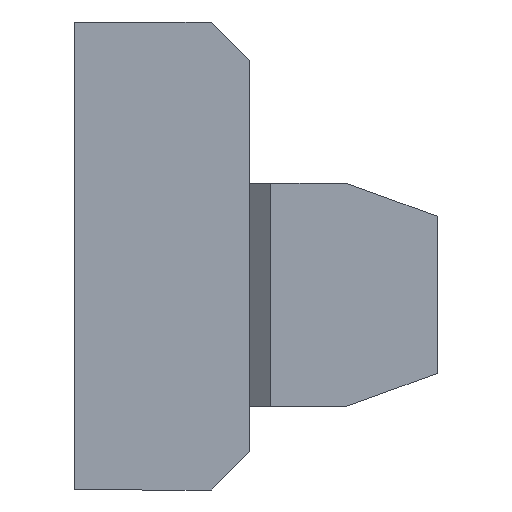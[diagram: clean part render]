
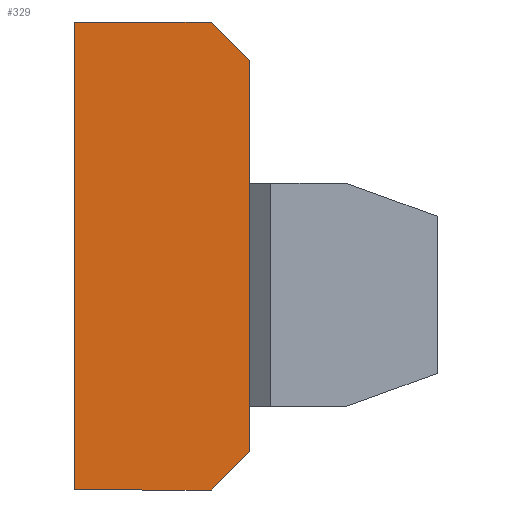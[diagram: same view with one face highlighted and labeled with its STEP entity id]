
A CAD part, left-side view. The second image highlights one B-rep face of the part: STEP entity #329.
In plain terms, the highlighted planar face has unit normal (-1, 0, 0).
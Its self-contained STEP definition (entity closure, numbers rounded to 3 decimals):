
#45=CARTESIAN_POINT('',(4.53,46.968,12.06));
#46=VERTEX_POINT('',#45);
#53=CARTESIAN_POINT('',(4.53,46.968,5.56));
#54=VERTEX_POINT('',#53);
#55=CARTESIAN_POINT('',(4.53,46.968,12.06));
#56=DIRECTION('',(0.,0.,-1.));
#57=VECTOR('',#56,6.5);
#58=LINE('',#55,#57);
#59=EDGE_CURVE('',#46,#54,#58,.T.);
#84=CARTESIAN_POINT('',(4.53,52.468,0.06));
#85=VERTEX_POINT('',#84);
#86=CARTESIAN_POINT('',(4.53,46.968,5.56));
#87=DIRECTION('',(0.,0.707,-0.707));
#88=VECTOR('',#87,7.778);
#89=LINE('',#86,#88);
#90=EDGE_CURVE('',#54,#85,#89,.T.);
#258=CARTESIAN_POINT('',(4.53,52.468,67.21));
#259=VERTEX_POINT('',#258);
#266=CARTESIAN_POINT('',(4.53,46.968,61.71));
#267=VERTEX_POINT('',#266);
#268=CARTESIAN_POINT('',(4.53,52.468,67.21));
#269=DIRECTION('',(0.,-0.707,-0.707));
#270=VECTOR('',#269,7.778);
#271=LINE('',#268,#270);
#272=EDGE_CURVE('',#259,#267,#271,.T.);
#283=CARTESIAN_POINT('',(4.53,89.279,0.06));
#284=DIRECTION('',(0.,0.,-1.));
#285=DIRECTION('',(-1.,0.,0.));
#286=AXIS2_PLACEMENT_3D('',#283,#285,#284);
#287=PLANE('',#286);
#288=ORIENTED_EDGE('',*,*,#272,.F.);
#289=CARTESIAN_POINT('',(4.53,72.018,67.21));
#290=VERTEX_POINT('',#289);
#291=CARTESIAN_POINT('',(4.53,52.468,67.21));
#292=DIRECTION('',(0.,1.,0.));
#293=VECTOR('',#292,19.55);
#294=LINE('',#291,#293);
#295=EDGE_CURVE('',#259,#290,#294,.T.);
#296=ORIENTED_EDGE('E38',*,*,#295,.T.);
#297=CARTESIAN_POINT('',(4.53,72.018,0.06));
#298=VERTEX_POINT('',#297);
#299=CARTESIAN_POINT('',(4.53,72.018,67.21));
#300=DIRECTION('',(0.,0.,-1.));
#301=VECTOR('',#300,67.15);
#302=LINE('',#299,#301);
#303=EDGE_CURVE('',#290,#298,#302,.T.);
#304=ORIENTED_EDGE('E39',*,*,#303,.T.);
#305=CARTESIAN_POINT('',(4.53,72.018,0.06));
#306=DIRECTION('',(0.,-1.,0.));
#307=VECTOR('',#306,19.55);
#308=LINE('',#305,#307);
#309=EDGE_CURVE('',#298,#85,#308,.T.);
#310=ORIENTED_EDGE('E40',*,*,#309,.T.);
#311=ORIENTED_EDGE('E40',*,*,#90,.F.);
#312=ORIENTED_EDGE('E40',*,*,#59,.F.);
#313=CARTESIAN_POINT('',(4.53,46.968,44.06));
#314=VERTEX_POINT('',#313);
#315=CARTESIAN_POINT('',(4.53,46.968,12.06));
#316=DIRECTION('',(0.,0.,1.));
#317=VECTOR('',#316,32.);
#318=LINE('',#315,#317);
#319=EDGE_CURVE('',#46,#314,#318,.T.);
#320=ORIENTED_EDGE('E41',*,*,#319,.T.);
#321=CARTESIAN_POINT('',(4.53,46.968,44.06));
#322=DIRECTION('',(0.,0.,1.));
#323=VECTOR('',#322,17.65);
#324=LINE('',#321,#323);
#325=EDGE_CURVE('',#314,#267,#324,.T.);
#326=ORIENTED_EDGE('E42',*,*,#325,.T.);
#327=EDGE_LOOP('',(#288,#296,#304,#310,#311,#312,#320,#326));
#328=FACE_OUTER_BOUND('',#327,.T.);
#329=ADVANCED_FACE('F10',(#328),#287,.T.);
